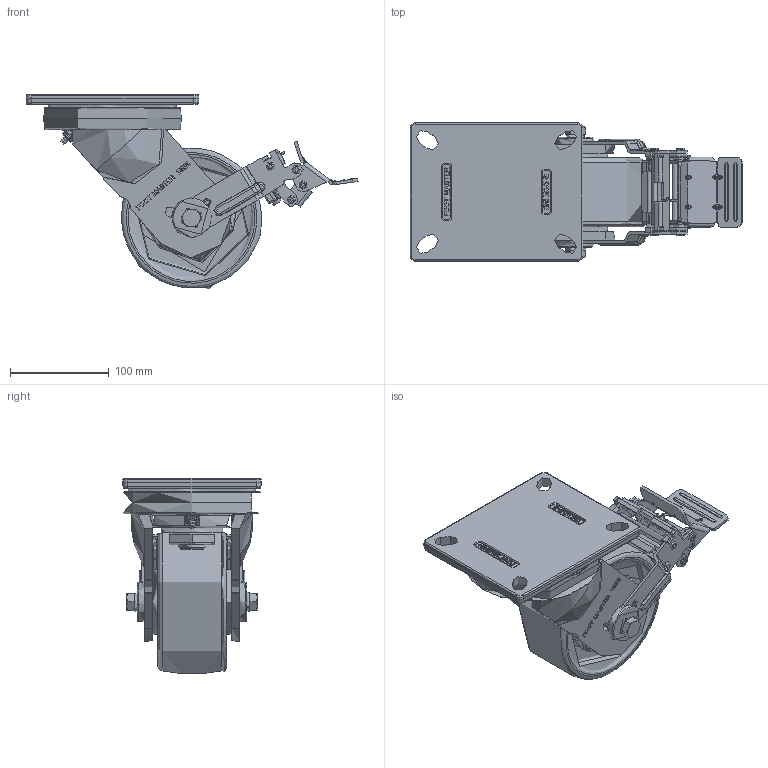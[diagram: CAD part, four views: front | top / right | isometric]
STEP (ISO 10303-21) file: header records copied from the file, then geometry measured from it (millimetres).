
FILE_DESCRIPTION(/* description */ (''),/* implementation_level */ '2;1');
FILE_NAME(/* name */ 'Y:\1.기술연구소\2.연구개발 진행중\133.고하중캐스터 브레이크 타입 변경건_2025.11.03\1.도면\4.홈페이지용 도면\01. 3D\GXT-150 SERIES\GXT-150-STEP\GXT-150N-BSF-NYD-TB.stp',/* time_stamp */ '2026-07-21T18:27:33+09:00',/* author */ ('장용하'),/* organization */ (''),/* preprocessor_version */ 'ST-DEVELOPER v18.1',/* originating_system */ 'Autodesk Inventor 2021',/* authorisation */ '');
FILE_SCHEMA (('CONFIG_CONTROL_DESIGN'));
Length unit declared in the file: millimetre
Products named in the file (1): GXT-150N-BSF-NYD-TB
Bounding box: 335.87 x 140 x 197.51 mm (x, y, z)
Topology: 1 solids, 5 shells, 2066 faces, 5550 edges, 3603 vertices
Faces by surface type: plane 901, bspline 606, cylinder 435, torus 78, cone 34, sphere 12
Full cylindrical faces by diameter (mm): 2 x7, 4 x6, 6.2 x14, 6.8 x4, 8 x6, 8.5 x6, 12 x2, 12.5 x2, 13 x2, 30 x1, 40 x2, 62.5 x1, 65 x2, 131.086 x1
Entity records: 70592 total; most frequent: CARTESIAN_POINT 21748, ORIENTED_EDGE 11106, DIRECTION 8613, EDGE_CURVE 5553, VERTEX_POINT 3603, LINE 3015, VECTOR 3015, AXIS2_PLACEMENT_3D 2799
